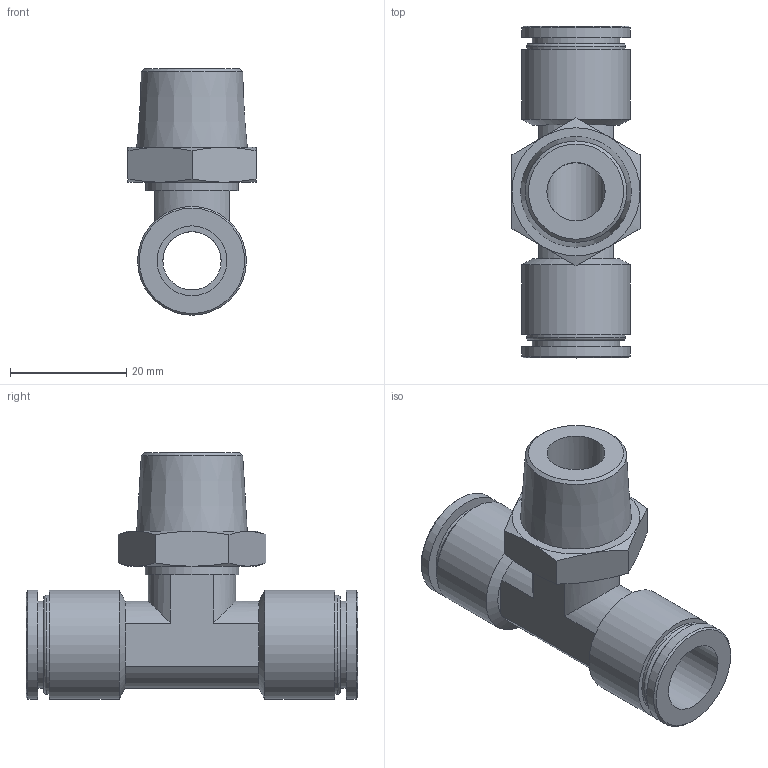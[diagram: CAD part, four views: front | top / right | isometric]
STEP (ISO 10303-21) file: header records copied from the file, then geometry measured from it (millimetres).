
FILE_DESCRIPTION(/* description */ (''),/* implementation_level */ '2;1');
FILE_NAME(/* name */ 'LXH31 0012 B4.stp',/* time_stamp */ '2026-04-22T20:51:14+02:00',/* author */ ('freju'),/* organization */ (''),/* preprocessor_version */ 'ST-DEVELOPER v20.1',/* originating_system */ 'Autodesk Inventor 2026',/* authorisation */ '');
FILE_SCHEMA (('AUTOMOTIVE_DESIGN { 1 0 10303 214 3 1 1 }'));
Length unit declared in the file: millimetre
Products named in the file (1): LXH31 0012 B4
Bounding box: 22 x 57 x 42.35 mm (x, y, z)
Volume: 11844.1 mm3; surface area: 8715.1 mm2
Topology: 1 solids, 1 shells, 68 faces, 145 edges, 89 vertices
Faces by surface type: plane 26, cylinder 22, cone 18, torus 2
Full cylindrical faces by diameter (mm): 10 x2, 12 x2, 15 x2, 16 x1, 17 x2, 18.7 x4
Entity records: 1863 total; most frequent: CARTESIAN_POINT 351, DIRECTION 330, ORIENTED_EDGE 290, EDGE_CURVE 145, AXIS2_PLACEMENT_3D 140, VERTEX_POINT 89, EDGE_LOOP 82, FACE_OUTER_BOUND 68
